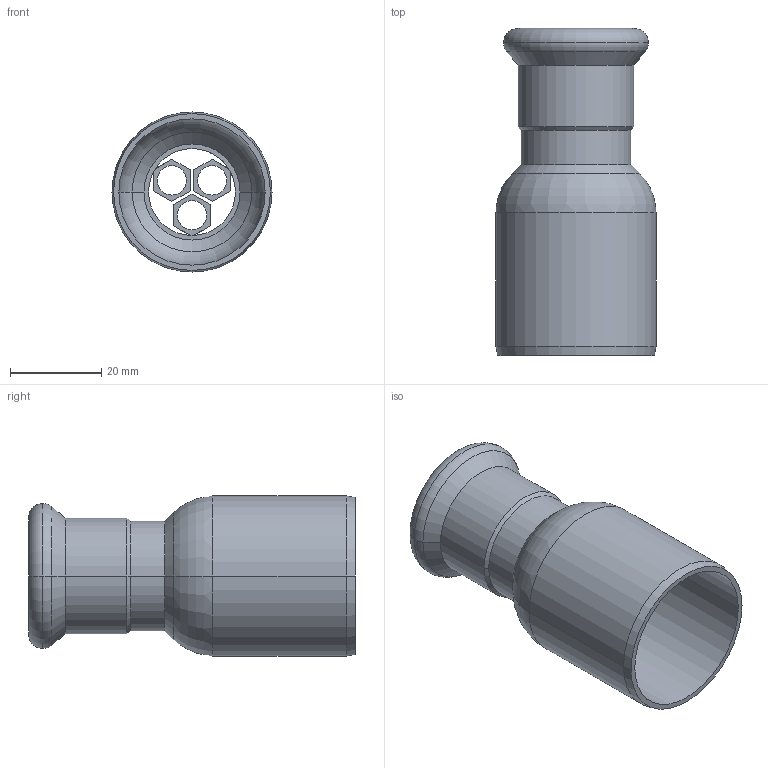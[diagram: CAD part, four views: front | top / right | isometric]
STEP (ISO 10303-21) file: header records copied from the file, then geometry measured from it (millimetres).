
FILE_DESCRIPTION(('OneSpaceDesigner STEP Export'),'2;1');
FILE_NAME('R2707 22x35.stp','2010-06-09T13:12:10',(''),(''),'OneSpace Designer STEP processor for AP214 (Solid Model)','OneSpace Modeling 15.00A 14-Mar-2007 (C) CoCreate Software GmbH','');
FILE_SCHEMA(('AUTOMOTIVE_DESIGN { 1 0 10303 214 1 1 1 1 }'));
Length unit declared in the file: millimetre
Products named in the file (2): R2707_22x35
Assembly tree (1 placements, depth 2):
  R2707_22x35
    R2707_22x35
Bounding box: 35 x 71.5 x 35 mm (x, y, z)
Volume: 11893.6 mm3; surface area: 14475.7 mm2
Topology: 1 solids, 1 shells, 75 faces, 178 edges, 111 vertices
Faces by surface type: plane 32, cylinder 25, cone 10, torus 8
Entity records: 1911 total; most frequent: ORIENTED_EDGE 356, CARTESIAN_POINT 303, DIRECTION 283, EDGE_CURVE 178, VERTEX_POINT 111, VECTOR 101, LINE 101, AXIS2_PLACEMENT_3D 91
